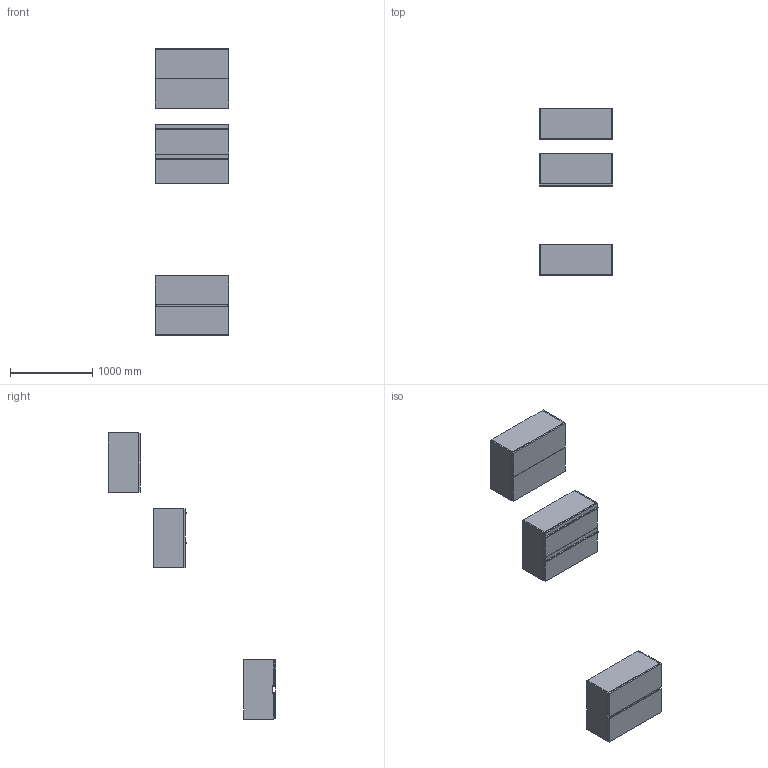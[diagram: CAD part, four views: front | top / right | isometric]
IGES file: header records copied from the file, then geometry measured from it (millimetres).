
Start section: Data from Parasolid IGES Translator 19.0.9, Copyright(c) 2006 Siemens PL M Software. All Rights Reserved.
Global section: file name: noorth-SI-H 72 D 38,8 W 90_8603.igs; native system: By Siemens PLM Incorporated; preprocessor: XPlus GENERIC/IGES 19.0.9; author: Noname; organization: Noname; date: 20200601.115548; units: metre
Bounding box: 900 x 2036 x 3480.32 mm (x, y, z)
Volume: 97324106.9 mm3; surface area: 15414311.8 mm2
Topology: 24 solids, 24 shells, 248 faces, 544 edges, 324 vertices
Faces by surface type: plane 164, extrusion 36, bspline 32, cylinder 16
